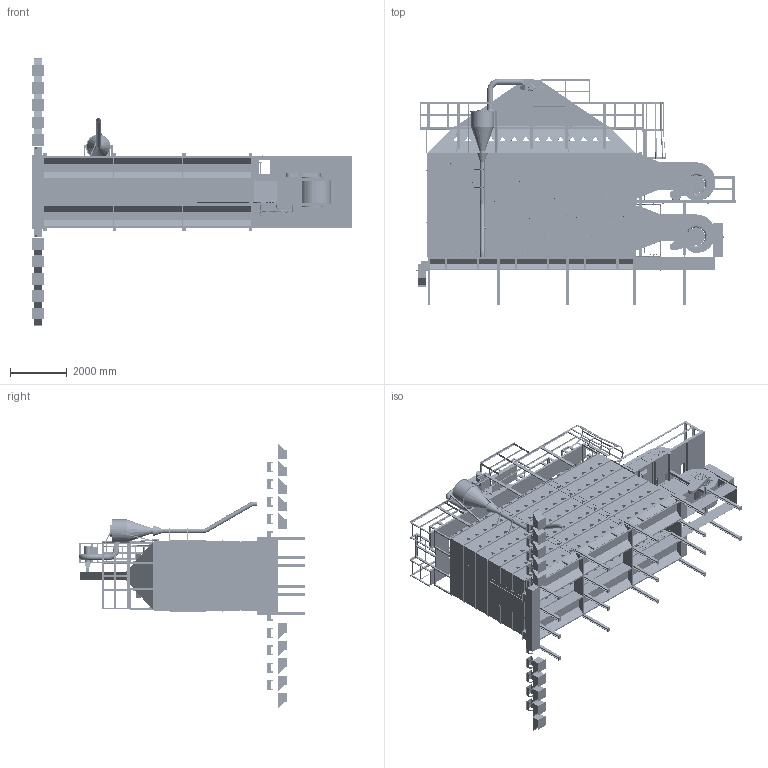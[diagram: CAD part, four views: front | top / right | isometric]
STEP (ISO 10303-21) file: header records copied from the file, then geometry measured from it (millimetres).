
FILE_DESCRIPTION(/* description */ ('PLAN AND ELEVATION VIEW FOR D24108 WITH ROOF & PRE-CLEANER'),/* implementation_level */ '2;1');
FILE_NAME(/* name */ 'C:\Engineering\Designs\Sales\Dryer\Workspaces\D24 All\D24108PC.stp',/* time_stamp */ '2025-01-07T09:30:33-06:00',/* author */ ('max.fleming'),/* organization */ (''),/* preprocessor_version */ 'ST-DEVELOPER v18.1',/* originating_system */ 'Autodesk Inventor 2022',/* authorisation */ '');
FILE_SCHEMA (('AUTOMOTIVE_DESIGN { 1 0 10303 214 3 1 1 }'));
Products named in the file (45): D24108PC; 24FT FRAME; 8FT MID FRAME; 8FT LHRH FRAME; 24FT ROOF GF; 8FTRoof GF MID; 8FTRoof GF LHRH; Tongue; Platform Support 1-T; 24FT BODY TIER; LH Body; MID Body; RH Body; LH Body_MIR2; MID Body_MIR1; RH Body_MIR2; Outside Splice; Trans & Blower; Screen Guard; Belt Shield; LP Fuel; Standard Size End Plenum Panels; Ladder 2' section; Platform; 1 Tier Vertical Support; LP Inlet; 2401002; Liquid Propane Pipe; 6'' CROSS AUGER; 12'' CROSS DRAG; 24FT PRE CLEANER RH DIS; 24FT Pre Cleaner Grav Assy; Aspirator Blower CCW; Aspirator Blower; NEMA MOTOR 182T; 24FT FULL CATWALK W PRE CLEANER MOUNTS; Pre-Cleaner Cyclone; 24FT Aspirator 8in Pipe; Ladder Cage; 6IN ELBOW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
Assembly tree (75 placements, depth 4):
  D24108PC
    24FT FRAME
      8FT LHRH FRAME  x2
      8FT MID FRAME
    24FT ROOF GF
      8FTRoof GF LHRH  x2
      8FTRoof GF MID
    Tongue
    Platform Support 1-T
    24FT BODY TIER  x6
      LH Body
      MID Body
      RH Body
      LH Body_MIR2
      MID Body_MIR1
      RH Body_MIR2
      Outside Splice
    Trans & Blower  x2
    Screen Guard  x4
    Belt Shield  x2
    LP Fuel  x2
    Standard Size End Plenum Panels  x9
    Platform
    1 Tier Vertical Support  x4
    LP Inlet
    2401002
    Liquid Propane Pipe  x3
    24FT PRE CLEANER RH DIS
      24FT Pre Cleaner Grav Assy
      Aspirator Blower CCW
        Aspirator Blower
        NEMA MOTOR 182T
      24FT FULL CATWALK W PRE CLEANER MOUNTS
      Pre-Cleaner Cyclone
      24FT Aspirator 8in Pipe
    Ladder Cage
    6IN ELBOW  x2
    6in PIPE 60L  x3
    6IN HANGER  x3
    6in PIPE SLEEVE 11L
    PIPE SUPPORT  x2
  Ladder 2' section
  6'' CROSS AUGER
  12'' CROSS DRAG
  Leg Kit 24 10T 4'
Bounding box: 11201.4 x 7936.8 x 9423.4 mm (x, y, z)
Volume: 57372062957.4 mm3; surface area: 849766866.9 mm2
Topology: 460 solids, 618 shells, 37749 faces, 98330 edges, 62820 vertices
Faces by surface type: plane 17893, cylinder 10890, bspline 3781, cone 3398, torus 1603, sphere 184
Full cylindrical faces by diameter (mm): 1 x10, 1.651 x6, 1.753 x6, 1.778 x12, 2.019 x4, 2.108 x2, 2.286 x24, 2.489 x2, 2.54 x4, 3.091 x288, 3.175 x5, 3.251 x20, 3.306 x288, 3.522 x2, 3.658 x28, 3.8 x16, 4 x384, 4.039 x20, 4.166 x256, 4.191 x4, 4.229 x2, 4.267 x2, 4.369 x8, 4.445 x8, 4.701 x592, 4.762 x16, 4.851 x8, 4.928 x32, 5.283 x2, 5.527 x20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
Entity records: 811984 total; most frequent: CARTESIAN_POINT 349080, ORIENTED_EDGE 96830, DIRECTION 86618, EDGE_CURVE 48555, VERTEX_POINT 31085, AXIS2_PLACEMENT_3D 29109, LINE 28400, VECTOR 28400
